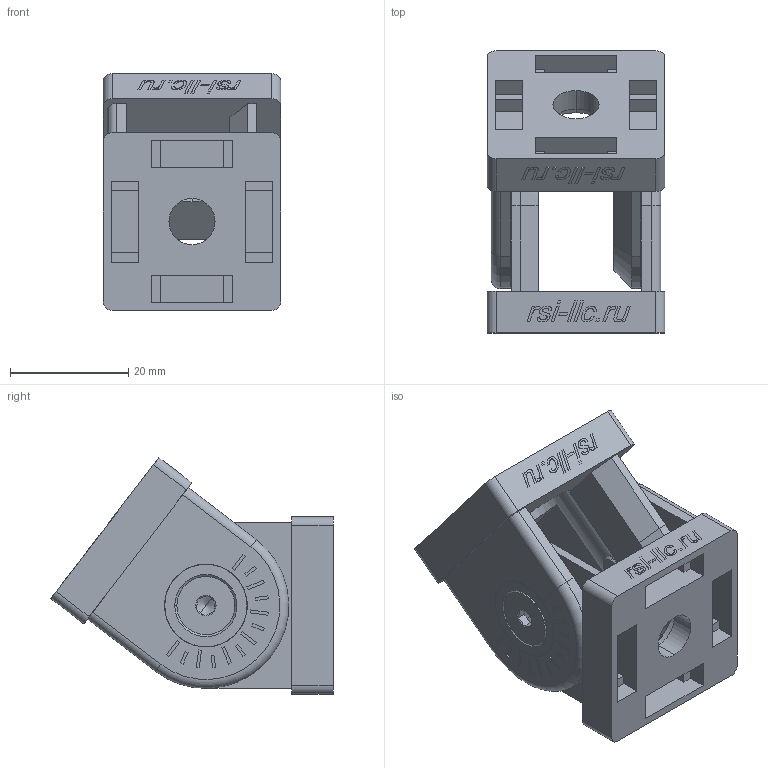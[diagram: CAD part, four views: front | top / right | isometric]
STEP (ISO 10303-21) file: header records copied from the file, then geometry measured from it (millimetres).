
FILE_DESCRIPTION (( 'STEP AP214' ), '1' );
FILE_NAME ('2115.STEP', '2022-07-12T08:43:42', ( 'Home' ), ( '' ), 'SwSTEP 2.0', 'SolidWorks 2020', '' );
FILE_SCHEMA (( 'AUTOMOTIVE_DESIGN' ));
Length unit declared in the file: millimetre
Products named in the file (4): 2115-1; 2115; 2115-2; Âèíò-ïîò.-øåñòèãð.-ÃÎÑÒ-Ð-ÈÑÎ-10642-2012-DIN-7991_Œ5x8
Assembly tree (6 placements, depth 2):
  2115
    2115-1  x2
    2115-2  x2
    Âèíò-ïîò.-øåñòèãð.-ÃÎÑÒ-Ð-ÈÑÎ-10642-2012-DIN-7991_Œ5x8  x2
Bounding box: 30 x 47.69 x 39.98 mm (x, y, z)
Volume: 19063.6 mm3; surface area: 16056.8 mm2
Topology: 32 solids, 32 shells, 688 faces, 1682 edges, 1110 vertices
Faces by surface type: plane 452, cylinder 122, bspline 76, cone 32, torus 6
Entity records: 15568 total; most frequent: CARTESIAN_POINT 6230, ORIENTED_EDGE 1678, DIRECTION 1436, EDGE_CURVE 839, LINE 598, VECTOR 598, VERTEX_POINT 555, AXIS2_PLACEMENT_3D 419
